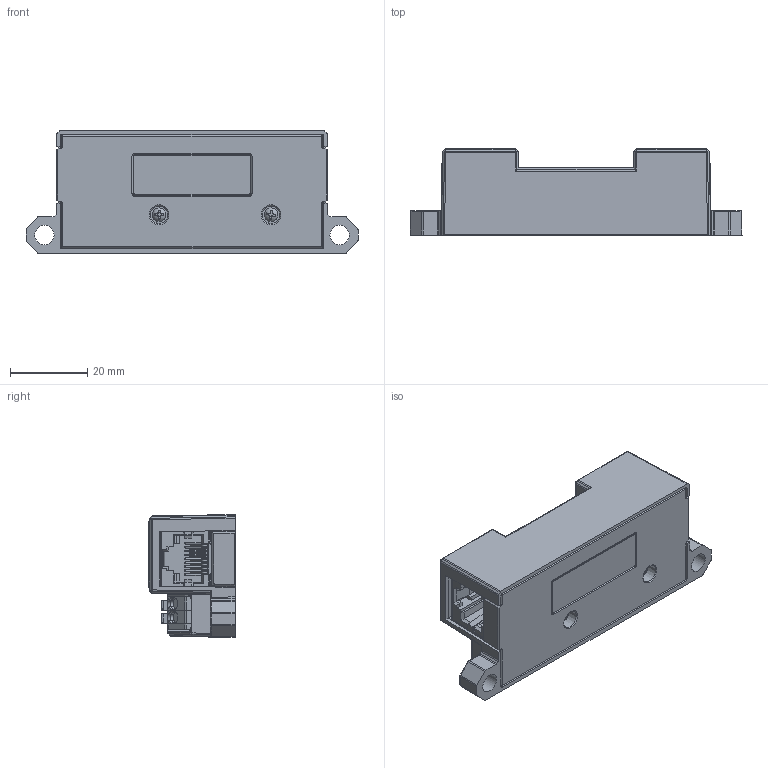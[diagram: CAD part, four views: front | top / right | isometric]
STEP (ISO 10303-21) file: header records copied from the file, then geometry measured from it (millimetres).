
FILE_DESCRIPTION(/* description */ (''),/* implementation_level */ '2;1');
FILE_NAME(/* name */ 'Radio Power Module .step',/* time_stamp */ '2022-12-29T16:12:54-08:00',/* author */ (''),/* organization */ (''),/* preprocessor_version */ 'ST-DEVELOPER v19.2',/* originating_system */ 'Autodesk Translation Framework v11.17.0.187',/* authorisation */ '');
FILE_SCHEMA (('AUTOMOTIVE_DESIGN { 1 0 10303 214 3 1 1 }'));
Products named in the file (1): Radio Power Module
Bounding box: 85.72 x 22.25 x 31.75 mm (x, y, z)
Volume: 19390.3 mm3; surface area: 36060.5 mm2
Topology: 109 solids, 109 shells, 3845 faces, 10446 edges, 6836 vertices
Faces by surface type: plane 2105, bspline 931, cylinder 619, cone 130, sphere 32, torus 28
Full cylindrical faces by diameter (mm): 0.321 x2, 0.424 x1, 0.89 x24, 1.016 x2, 1.2 x12, 1.57 x4, 1.6 x2, 2.2 x2, 3.25 x4, 3.5 x2, 5 x2
Entity records: 135689 total; most frequent: CARTESIAN_POINT 42354, ORIENTED_EDGE 20832, DIRECTION 16932, EDGE_CURVE 10416, LINE 6844, VECTOR 6844, VERTEX_POINT 6836, AXIS2_PLACEMENT_3D 5044
